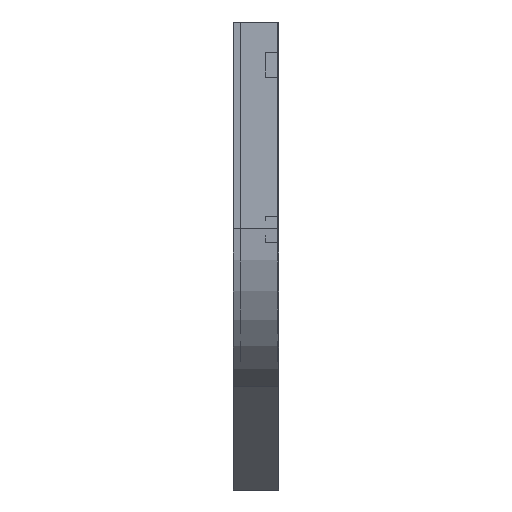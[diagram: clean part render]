
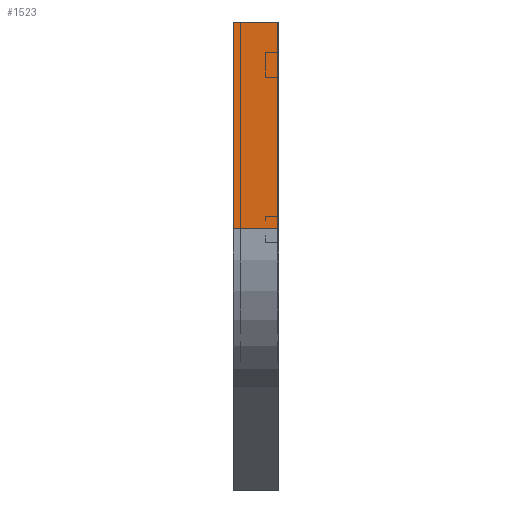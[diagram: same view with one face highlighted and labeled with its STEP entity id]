
A CAD part, left-side view. The second image highlights one B-rep face of the part: STEP entity #1523.
In plain terms, the highlighted planar face has unit normal (-1, 0, 0).
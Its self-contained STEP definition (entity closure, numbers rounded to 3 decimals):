
#35 = VERTEX_POINT ( 'NONE', #372 ) ;
#76 = EDGE_LOOP ( 'NONE', ( #699, #436, #1536, #636 ) ) ;
#88 = DIRECTION ( 'NONE',  ( 0., -1., 0. ) ) ;
#98 = CARTESIAN_POINT ( 'NONE',  ( 0., 0., 0. ) ) ;
#197 = VERTEX_POINT ( 'NONE', #973 ) ;
#198 = CARTESIAN_POINT ( 'NONE',  ( 0., 0., -338.675 ) ) ;
#272 = CARTESIAN_POINT ( 'NONE',  ( 0., 0., 0. ) ) ;
#325 = VECTOR ( 'NONE', #948, 1000. ) ;
#336 = EDGE_CURVE ( 'NONE', #1579, #197, #746, .T. ) ;
#372 = CARTESIAN_POINT ( 'NONE',  ( 0., 0., 0. ) ) ;
#425 = FACE_OUTER_BOUND ( 'NONE', #76, .T. ) ;
#436 = ORIENTED_EDGE ( 'NONE', *, *, #956, .F. ) ;
#595 = DIRECTION ( 'NONE',  ( 0., 0., -1. ) ) ;
#636 = ORIENTED_EDGE ( 'NONE', *, *, #1444, .T. ) ;
#657 = VECTOR ( 'NONE', #595, 1000. ) ;
#699 = ORIENTED_EDGE ( 'NONE', *, *, #1014, .F. ) ;
#746 = LINE ( 'NONE', #1578, #657 ) ;
#800 = VERTEX_POINT ( 'NONE', #198 ) ;
#819 = CARTESIAN_POINT ( 'NONE',  ( 0., 0., -338.675 ) ) ;
#836 = CARTESIAN_POINT ( 'NONE',  ( 0., 0., 0. ) ) ;
#913 = AXIS2_PLACEMENT_3D ( 'NONE', #272, #1860, #986 ) ;
#948 = DIRECTION ( 'NONE',  ( 0., 0., -1. ) ) ;
#955 = LINE ( 'NONE', #819, #1676 ) ;
#956 = EDGE_CURVE ( 'NONE', #1579, #35, #1092, .T. ) ;
#973 = CARTESIAN_POINT ( 'NONE',  ( 0., 75., -338.675 ) ) ;
#986 = DIRECTION ( 'NONE',  ( 0., 0., -1. ) ) ;
#1014 = EDGE_CURVE ( 'NONE', #35, #800, #1233, .T. ) ;
#1053 = VECTOR ( 'NONE', #88, 1000. ) ;
#1092 = LINE ( 'NONE', #836, #1053 ) ;
#1125 = PLANE ( 'NONE',  #913 ) ;
#1233 = LINE ( 'NONE', #98, #325 ) ;
#1390 = DIRECTION ( 'NONE',  ( 0., -1., 0. ) ) ;
#1444 = EDGE_CURVE ( 'NONE', #197, #800, #955, .T. ) ;
#1523 = ADVANCED_FACE ( 'NONE', ( #425 ), #1125, .F. ) ;
#1536 = ORIENTED_EDGE ( 'NONE', *, *, #336, .T. ) ;
#1578 = CARTESIAN_POINT ( 'NONE',  ( 0., 75., 0. ) ) ;
#1579 = VERTEX_POINT ( 'NONE', #1736 ) ;
#1676 = VECTOR ( 'NONE', #1390, 1000. ) ;
#1736 = CARTESIAN_POINT ( 'NONE',  ( 0., 75., 0. ) ) ;
#1860 = DIRECTION ( 'NONE',  ( 1., 0., 0. ) ) ;
